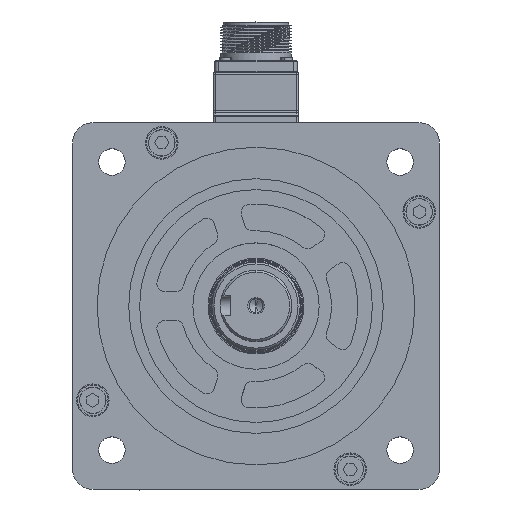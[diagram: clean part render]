
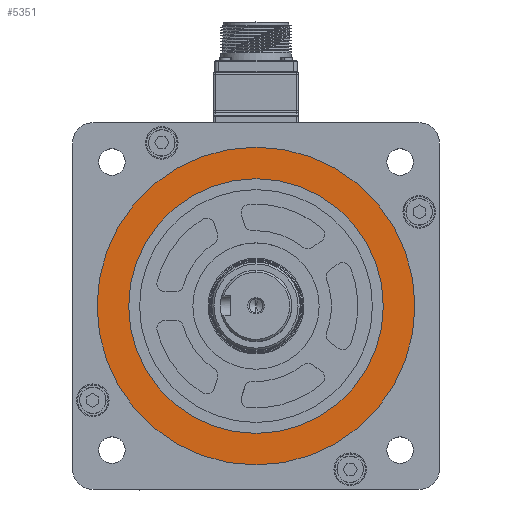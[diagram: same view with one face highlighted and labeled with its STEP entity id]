
A CAD part, top view. The second image highlights one B-rep face of the part: STEP entity #5351.
In plain terms, the highlighted planar face has unit normal (0, 0, 1) as drawn and (1, 0, 0) by its records, which use the part's own axes.
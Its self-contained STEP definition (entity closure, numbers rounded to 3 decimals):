
#142 = DIRECTION ( 'NONE',  ( 0., 0., 1. ) ) ;
#450 = DIRECTION ( 'NONE',  ( -1., 0., 0. ) ) ;
#912 = DIRECTION ( 'NONE',  ( 0., 0., 1. ) ) ;
#2179 = ORIENTED_EDGE ( 'NONE', *, *, #41475, .F. ) ;
#4506 = DIRECTION ( 'NONE',  ( -1., 0., 0. ) ) ;
#5351 = ADVANCED_FACE ( 'NONE', ( #32695, #41013 ), #18693, .F. ) ;
#8670 = CARTESIAN_POINT ( 'NONE',  ( 22.02, 0., 78. ) ) ;
#9304 = ORIENTED_EDGE ( 'NONE', *, *, #45923, .T. ) ;
#10067 = CIRCLE ( 'NONE', #27060, 78. ) ;
#11559 = ORIENTED_EDGE ( 'NONE', *, *, #41559, .T. ) ;
#13122 = DIRECTION ( 'NONE',  ( -1., 0., 0. ) ) ;
#15875 = VERTEX_POINT ( 'NONE', #31743 ) ;
#16053 = CIRCLE ( 'NONE', #31312, 62.5 ) ;
#16206 = VERTEX_POINT ( 'NONE', #8670 ) ;
#16566 = CIRCLE ( 'NONE', #25729, 78. ) ;
#18693 = PLANE ( 'NONE',  #42225 ) ;
#21504 = DIRECTION ( 'NONE',  ( -1., 0., 0. ) ) ;
#21801 = CARTESIAN_POINT ( 'NONE',  ( 22.02, 0., 0. ) ) ;
#22263 = DIRECTION ( 'NONE',  ( -1., 0., 0. ) ) ;
#22509 = CARTESIAN_POINT ( 'NONE',  ( 22.02, 0., -78. ) ) ;
#23160 = EDGE_LOOP ( 'NONE', ( #42827, #2179 ) ) ;
#25375 = DIRECTION ( 'NONE',  ( 0., 0., 1. ) ) ;
#25729 = AXIS2_PLACEMENT_3D ( 'NONE', #21801, #450, #25375 ) ;
#26833 = VERTEX_POINT ( 'NONE', #34336 ) ;
#27060 = AXIS2_PLACEMENT_3D ( 'NONE', #42771, #21504, #142 ) ;
#29439 = DIRECTION ( 'NONE',  ( 0., 0., 1. ) ) ;
#30919 = EDGE_LOOP ( 'NONE', ( #11559, #9304 ) ) ;
#31312 = AXIS2_PLACEMENT_3D ( 'NONE', #34440, #13122, #38038 ) ;
#31743 = CARTESIAN_POINT ( 'NONE',  ( 22.02, 0., 62.5 ) ) ;
#32350 = VERTEX_POINT ( 'NONE', #22509 ) ;
#32695 = FACE_OUTER_BOUND ( 'NONE', #23160, .T. ) ;
#34336 = CARTESIAN_POINT ( 'NONE',  ( 22.02, 0., -62.5 ) ) ;
#34440 = CARTESIAN_POINT ( 'NONE',  ( 22.02, 0., 0. ) ) ;
#38038 = DIRECTION ( 'NONE',  ( 0., 0., 1. ) ) ;
#40006 = CARTESIAN_POINT ( 'NONE',  ( 22.02, 62.5, 0. ) ) ;
#41013 = FACE_BOUND ( 'NONE', #30919, .T. ) ;
#41475 = EDGE_CURVE ( 'NONE', #32350, #16206, #16566, .T. ) ;
#41559 = EDGE_CURVE ( 'NONE', #15875, #26833, #41603, .T. ) ;
#41603 = CIRCLE ( 'NONE', #42434, 62.5 ) ;
#42225 = AXIS2_PLACEMENT_3D ( 'NONE', #40006, #4506, #29439 ) ;
#42434 = AXIS2_PLACEMENT_3D ( 'NONE', #43546, #22263, #912 ) ;
#42771 = CARTESIAN_POINT ( 'NONE',  ( 22.02, 0., 0. ) ) ;
#42827 = ORIENTED_EDGE ( 'NONE', *, *, #44355, .F. ) ;
#43546 = CARTESIAN_POINT ( 'NONE',  ( 22.02, 0., 0. ) ) ;
#44355 = EDGE_CURVE ( 'NONE', #16206, #32350, #10067, .T. ) ;
#45923 = EDGE_CURVE ( 'NONE', #26833, #15875, #16053, .T. ) ;
